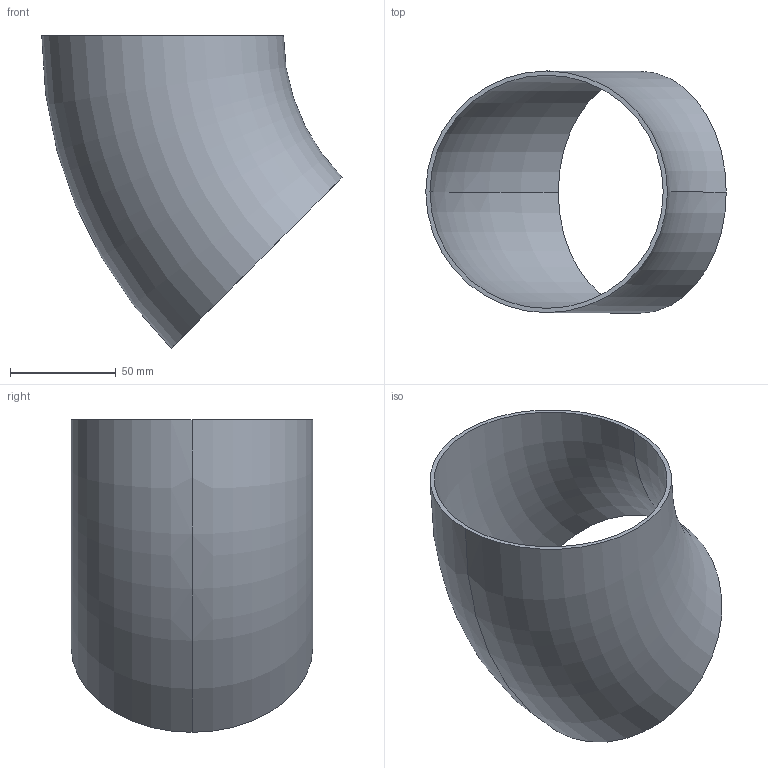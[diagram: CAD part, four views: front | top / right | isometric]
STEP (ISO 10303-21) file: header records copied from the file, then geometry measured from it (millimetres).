
FILE_DESCRIPTION (( 'STEP AP203' ), '1' );
FILE_NAME ('3D_R1650_114.3x2_17351550.STEP', '2024-08-03T09:08:41', ( '' ), ( '' ), 'SwSTEP 2.0', 'SolidWorks 2024', '' );
FILE_SCHEMA (( 'CONFIG_CONTROL_DESIGN' ));
Length unit declared in the file: millimetre
Products named in the file (1): 3D_R1650_114.3x2_17351550
Bounding box: 142.08 x 114.3 x 147.89 mm (x, y, z)
Volume: 84235.1 mm3; surface area: 85646.3 mm2
Topology: 1 solids, 1 shells, 6 faces, 12 edges, 8 vertices
Faces by surface type: torus 4, plane 2
Entity records: 249 total; most frequent: DIRECTION 38, CARTESIAN_POINT 27, ORIENTED_EDGE 24, AXIS2_PLACEMENT_3D 19, EDGE_CURVE 12, CIRCLE 12, EDGE_LOOP 8, VERTEX_POINT 8
